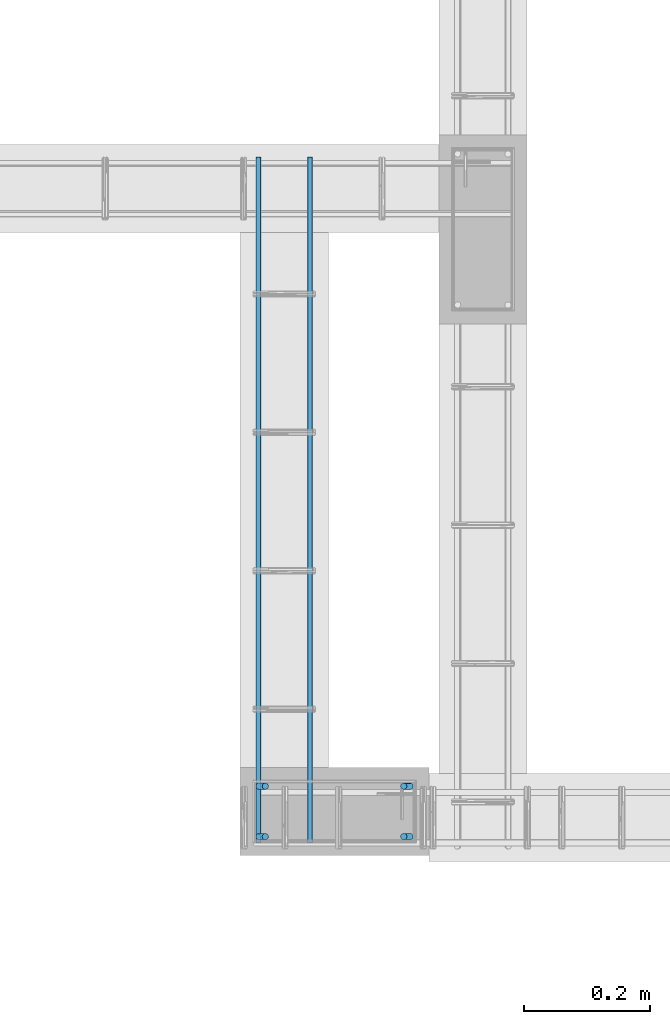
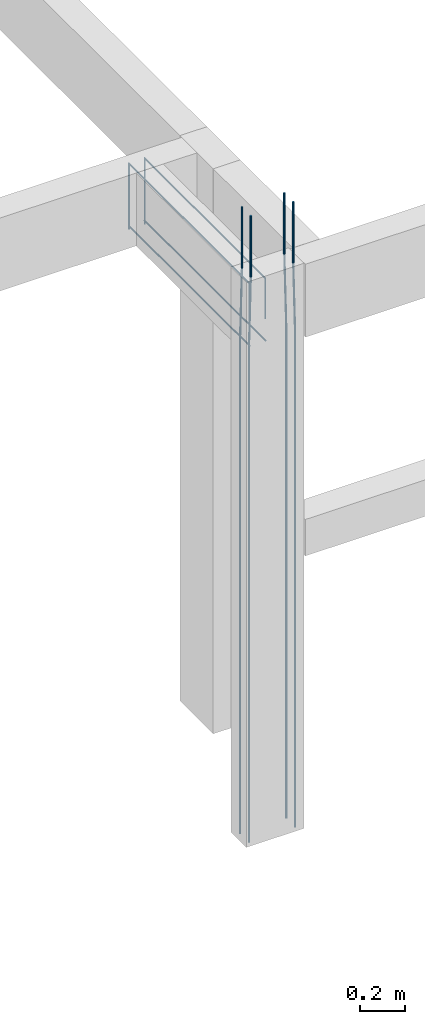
# One storey, part 12 of 236: 8 reinforcing bars.
"""IFC4 building model written with IfcOpenShell, lengths in centimetres."""

from ifc_helpers import new_model, entity, si_unit, derived_unit, frame, origin_with_axes, place, context, project, spatial, element, save


model = new_model("IFC4")

# Units and contexts
model_context = context("Model", 3, precision=1e-05, world=origin_with_axes(), identifier="Body")
ifc_project = project(units=[si_unit("LENGTHUNIT", "METRE", prefix="CENTI"), si_unit("VOLUMEUNIT", "CUBIC_METRE"), si_unit("AREAUNIT", "SQUARE_METRE"), si_unit("POWERUNIT", "WATT"), si_unit("LUMINOUSFLUXUNIT", "LUMEN"), si_unit("ELECTRICCURRENTUNIT", "AMPERE"), si_unit("PRESSUREUNIT", "PASCAL", prefix="KILO"), si_unit("MASSUNIT", "GRAM", prefix="KILO"), si_unit("PLANEANGLEUNIT", "RADIAN"), derived_unit("VOLUMETRICFLOWRATEUNIT", [(si_unit("LENGTHUNIT", "METRE"), 3), (si_unit("TIMEUNIT", "SECOND"), -1)])], contexts=[model_context])

# Site, building, storey
site_placement = place(None, frame((-4000.0, 0.0, 0.0), z_axis=(0.0, 0.0, 1.0), x_axis=(1.0, 0.0, 0.0)))
site = spatial("IfcSite", under=ifc_project, at=site_placement, Name="PADRÃO")
building_placement = place(site_placement, frame((0.0, 0.0, -14.0)))
building = spatial("IfcBuilding", under=site, at=building_placement, Name="CRECHE PRÉ-ESCOLA TIPO 2")
placement_1 = place(building_placement, origin_with_axes())
placement_2 = place(placement_1, frame((0.0, 0.0, 30.0), z_axis=(0.0, 0.0, 1.0), x_axis=(1.0, 0.0, 0.0)))
storey_placement = place(placement_2, frame((0.0, 0.0, 310.0), z_axis=(0.0, 0.0, 1.0), x_axis=(1.0, 0.0, 0.0)))
storey = spatial("IfcBuildingStorey", under=building, at=storey_placement, Name="TERREO", CompositionType="ELEMENT", Elevation=326.0)

# Reinforcing bars
for number, where, z_axis, x_axis, name in (
    (1, (491.5, 420.0, 33.3573001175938), (0.0, 0.0, 1.0), (1.0, 0.0, 0.0), "P143 - Longitudinal"),
    (2, (491.5, 412.0, 33.3573001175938), (0.0, 0.0, 1.0), (1.0, 0.0, 0.0), "P143 - Longitudinal"),
):
    element("IfcReinforcingBar", number, at=place(storey_placement, frame(where, z_axis=z_axis, x_axis=x_axis)), inside=storey, Name=name, BarLength=0.0, CrossSectionArea=7.853981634e-05, NominalDiameter=1.0, PredefinedType="MAIN", context=model_context, shape_type="AdvancedSweptSolid", body=[
        entity("IfcSweptDiskSolid", entity("IfcCompositeCurve", [entity("IfcCompositeCurveSegment", "CONTINUOUS", True, entity("IfcPolyline", [entity("IfcCartesianPoint", [0.5, 0.0, -343.357300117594]), entity("IfcCartesianPoint", [0.5, 0.0, -73.3573001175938])])), entity("IfcCompositeCurveSegment", "CONTINUOUS", True, entity("IfcPolyline", [entity("IfcCartesianPoint", [0.5, 0.0, -73.3573001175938]), entity("IfcCartesianPoint", [-0.5, 0.0, -33.3573001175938])])), entity("IfcCompositeCurveSegment", "CONTINUOUS", True, entity("IfcPolyline", [entity("IfcCartesianPoint", [-0.5, 0.0, -33.3573001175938]), entity("IfcCartesianPoint", [-0.5, 0.0, 0.0])]))], False), 0.5),
    ])
for number, where, z_axis, x_axis, name in (
    (3, (468.5, 412.0, 33.3573001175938), (0.0, 0.0, 1.0), (1.0, 0.0, 0.0), "P143 - Longitudinal"),
    (4, (468.5, 420.0, 33.3573001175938), (0.0, 0.0, 1.0), (1.0, 0.0, 0.0), "P143 - Longitudinal"),
):
    element("IfcReinforcingBar", number, at=place(storey_placement, frame(where, z_axis=z_axis, x_axis=x_axis)), inside=storey, Name=name, BarLength=0.0, CrossSectionArea=7.853981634e-05, NominalDiameter=1.0, PredefinedType="MAIN", context=model_context, shape_type="AdvancedSweptSolid", body=[
        entity("IfcSweptDiskSolid", entity("IfcCompositeCurve", [entity("IfcCompositeCurveSegment", "CONTINUOUS", True, entity("IfcPolyline", [entity("IfcCartesianPoint", [-0.5, 0.0, -343.357300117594]), entity("IfcCartesianPoint", [-0.5, 0.0, -73.3573001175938])])), entity("IfcCompositeCurveSegment", "CONTINUOUS", True, entity("IfcPolyline", [entity("IfcCartesianPoint", [-0.5, 0.0, -73.3573001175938]), entity("IfcCartesianPoint", [0.5, 0.0, -33.3573001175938])])), entity("IfcCompositeCurveSegment", "CONTINUOUS", True, entity("IfcPolyline", [entity("IfcCartesianPoint", [0.5, 0.0, -33.3573001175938]), entity("IfcCartesianPoint", [0.5, 0.0, 0.0])]))], False), 0.5),
    ])
for number, where, z_axis, x_axis, name in (
    (5, (467.9, 465.5, -36.7), (0.0, 0.0, 1.0), (1.0, 0.0, 0.0), "V266 - Longitudinal inferior"),
    (6, (476.1, 465.5, -36.7), (0.0, 0.0, 1.0), (1.0, 0.0, 0.0), "V266 - Longitudinal inferior"),
):
    element("IfcReinforcingBar", number, at=place(storey_placement, frame(where, z_axis=z_axis, x_axis=x_axis)), inside=storey, Name=name, BarLength=0.0, CrossSectionArea=5.0265482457e-05, NominalDiameter=0.8, PredefinedType="MAIN", context=model_context, shape_type="AdvancedSweptSolid", body=[
        entity("IfcSweptDiskSolid", entity("IfcCompositeCurve", [entity("IfcCompositeCurveSegment", "CONTINUOUS", True, entity("IfcPolyline", [entity("IfcCartesianPoint", [0.0, -54.5, -0.4]), entity("IfcCartesianPoint", [0.0, 54.5, -0.4])]))], False), 0.4),
    ])
for number, where, z_axis, x_axis, name in (
    (7, (476.1, 465.5, -2.49624973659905), (0.0, 0.0, 1.0), (1.0, 0.0, 0.0), "V266 - Longitudinal superior"),
    (8, (467.9, 465.5, -2.49624973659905), (0.0, 0.0, 1.0), (1.0, 0.0, 0.0), "V266 - Longitudinal superior"),
):
    element("IfcReinforcingBar", number, at=place(storey_placement, frame(where, z_axis=z_axis, x_axis=x_axis)), inside=storey, Name=name, BarLength=0.0, CrossSectionArea=5.0265482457e-05, NominalDiameter=0.8, PredefinedType="MAIN", context=model_context, shape_type="AdvancedSweptSolid", body=[
        entity("IfcSweptDiskSolid", entity("IfcCompositeCurve", [entity("IfcCompositeCurveSegment", "CONTINUOUS", True, entity("IfcPolyline", [entity("IfcCartesianPoint", [0.0, -54.1, -22.7014629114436]), entity("IfcCartesianPoint", [0.0, -54.1, -0.403750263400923])])), entity("IfcCompositeCurveSegment", "CONTINUOUS", True, entity("IfcPolyline", [entity("IfcCartesianPoint", [0.0, -54.1, -0.403750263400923]), entity("IfcCartesianPoint", [0.0, 54.1, -0.403750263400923])])), entity("IfcCompositeCurveSegment", "CONTINUOUS", True, entity("IfcPolyline", [entity("IfcCartesianPoint", [0.0, 54.1, -0.403750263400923]), entity("IfcCartesianPoint", [0.0, 54.1, -36.4037502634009])]))], False), 0.4),
    ])

save(model, "model.ifc")
